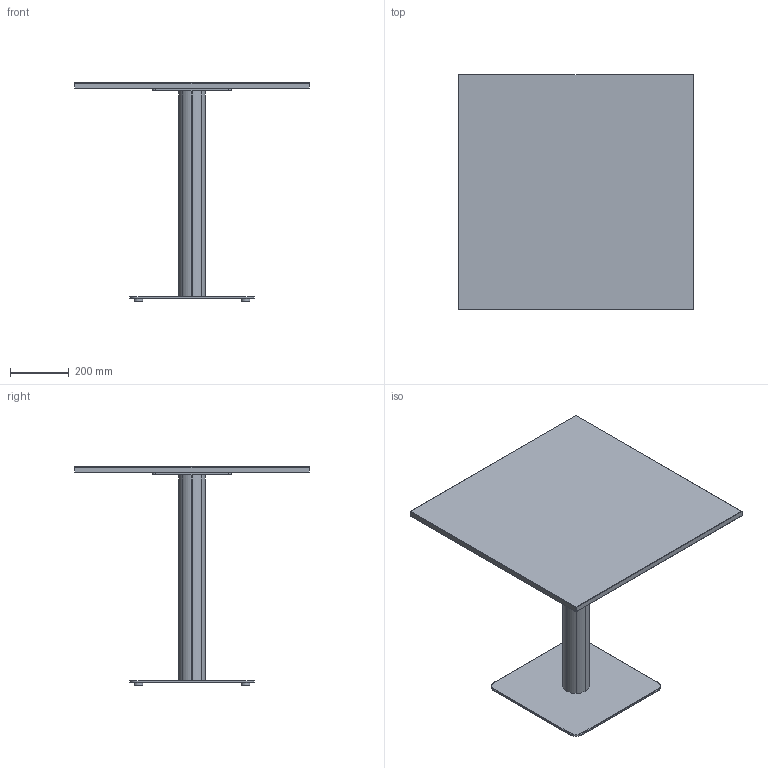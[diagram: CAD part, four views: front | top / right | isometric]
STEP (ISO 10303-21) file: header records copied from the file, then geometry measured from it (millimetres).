
FILE_DESCRIPTION( ('This file contains a STEP AP42 implementation' ,'as created by ZW3D STEP Interface translator.') ,'2;1' );
FILE_NAME( 'Fut - B_Carré - F4 - M1 - 800 x 800 x 750.stp' ,'24 911.163046', (''), ('ZWCAD Software Co.'), 'Version 1.0', 'ZW3D to STEP translator', '' );
FILE_SCHEMA(('AUTOMOTIVE_DESIGN { 1 0 10303 214 1 1 1 1 }'));
Length unit declared in the file: millimetre
Products named in the file (15): 0; PIED BISTROT PARAMETRIQUE_; CROIX ACIER 370 V.02_; CRX-X370-02_; SOCLE ACIER L 425x425 V.02_; SCL-R425-02_; PLA-R30A-01_; PLA-R30A-01; COLONNE ACIER Ø48.5 V.02_; TUB-D048-02_; PLA-R48A-01_; COLONNE BOIS PARAMETIQUE_; WUERTH 0276063020 Euro-screw 6.3x2 Verzinkt_; PLATEAU BISTROT PARAMETRIQUE_; insert_m6_13_
Assembly tree (23 placements, depth 3):
  0
  PIED BISTROT PARAMETRIQUE_
    CROIX ACIER 370 V.02_
      CRX-X370-02_
    SOCLE ACIER L 425x425 V.02_
      SCL-R425-02_
      PLA-R30A-01_
      PLA-R30A-01  x3
    COLONNE ACIER Ø48.5 V.02_
      TUB-D048-02_
      PLA-R48A-01_  x2
    COLONNE BOIS PARAMETIQUE_
    WUERTH 0276063020 Euro-screw 6.3x2 Verzinkt_
    PLATEAU BISTROT PARAMETRIQUE_
      insert_m6_13_  x8
Bounding box: 800 x 800 x 744 mm (x, y, z)
Volume: 17744861.3 mm3; surface area: 2502565.8 mm2
Topology: 23 solids, 23 shells, 561 faces, 1358 edges, 846 vertices
Faces by surface type: plane 282, bspline 129, cylinder 104, cone 45, torus 1
Full cylindrical faces by diameter (mm): 4.88 x1, 6 x8, 6.3 x1, 8 x45, 12 x2, 14 x2, 30 x4, 44.5 x3, 48.5 x1
Entity records: 13039 total; most frequent: CARTESIAN_POINT 3561, ORIENTED_EDGE 1722, DIRECTION 1600, EDGE_CURVE 861, VECTOR 558, LINE 558, VERTEX_POINT 548, AXIS2_PLACEMENT_3D 521
